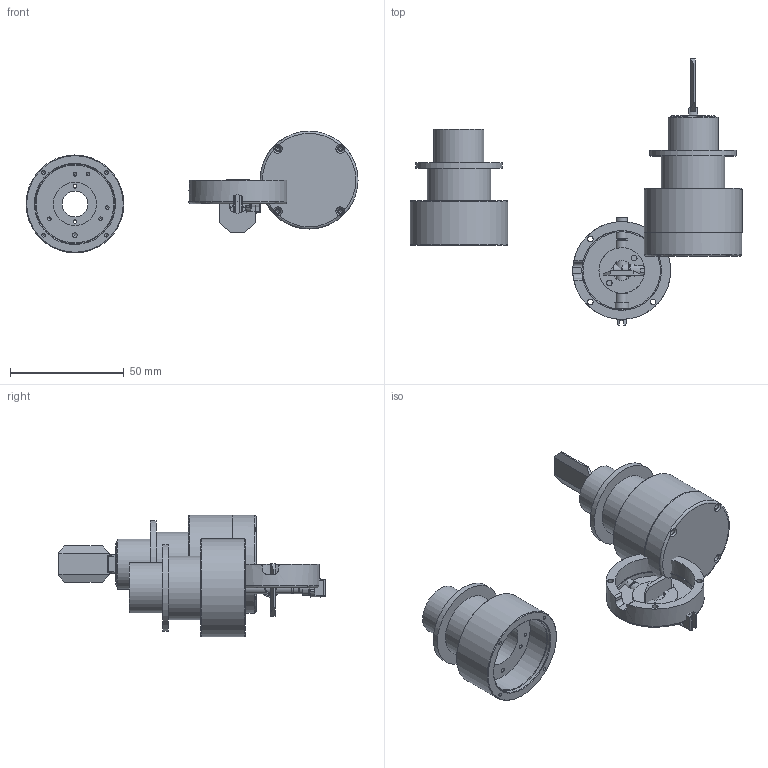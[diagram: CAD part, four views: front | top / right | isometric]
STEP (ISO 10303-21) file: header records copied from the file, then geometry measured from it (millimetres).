
FILE_DESCRIPTION( ( 'Unknown' ), '1' );
FILE_NAME( 'F:/方头/外形尺寸图/电机/3D/光栅电机/10mm光电光栅国产编码器模型-Y.stp', 'Unknown', ( 'Unknown' ), ( 'Unknown' ), 'XStep 1.0', 'Unknown', ' ' );
FILE_SCHEMA( ( 'CONFIG_CONTROL_DESIGN' ) );
Length unit declared in the file: millimetre
Products named in the file (9): Assem1; Assem2; 1; 2; 3; 4; 5; 6; 7
Bounding box: 145.85 x 116.86 x 53.48 mm (x, y, z)
Volume: 63998 mm3; surface area: 43534 mm2
Topology: 17 solids, 17 shells, 400 faces, 956 edges, 627 vertices
Faces by surface type: plane 179, cylinder 148, cone 59, torus 14
Full cylindrical faces by diameter (mm): 0.094 x2, 1.075 x6, 1.567 x22, 1.9 x4, 2.013 x2, 2.2 x3, 2.5 x12, 4.3 x12, 4.4 x3, 5 x3, 5.15 x3, 5.18 x6, 5.4 x3, 5.6 x3, 6.35 x3, 7 x3, 8.7 x2, 11.3 x2, 19 x2, 20 x4, 22 x2, 28 x2, 34 x2, 34.2 x2, 35 x4, 38 x2, 43 x4
Entity records: 4864 total; most frequent: CARTESIAN_POINT 989, DIRECTION 762, ORIENTED_EDGE 556, AXIS2_PLACEMENT_3D 329, EDGE_LOOP 284, EDGE_CURVE 278, VERTEX_POINT 232, FACE_OUTER_BOUND 222
